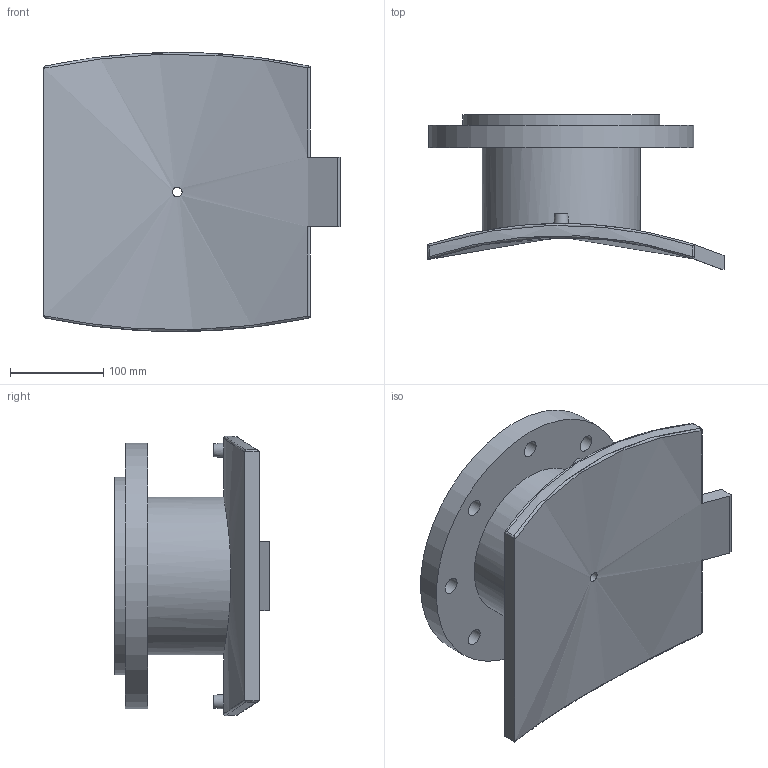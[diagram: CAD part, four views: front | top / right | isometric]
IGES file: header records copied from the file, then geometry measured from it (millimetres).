
Global section: file name: 495903900150T; native system: Autodesk Inventor 2019; preprocessor: unknown; author: KIM; date: 20240403.210849; units: millimetre
Bounding box: 318 x 166.15 x 299.82 mm (x, y, z)
Volume: 2991450.7 mm3; surface area: 421128.6 mm2
Topology: 1 solids, 1 shells, 58 faces, 151 edges, 118 vertices
Faces by surface type: bspline 58
